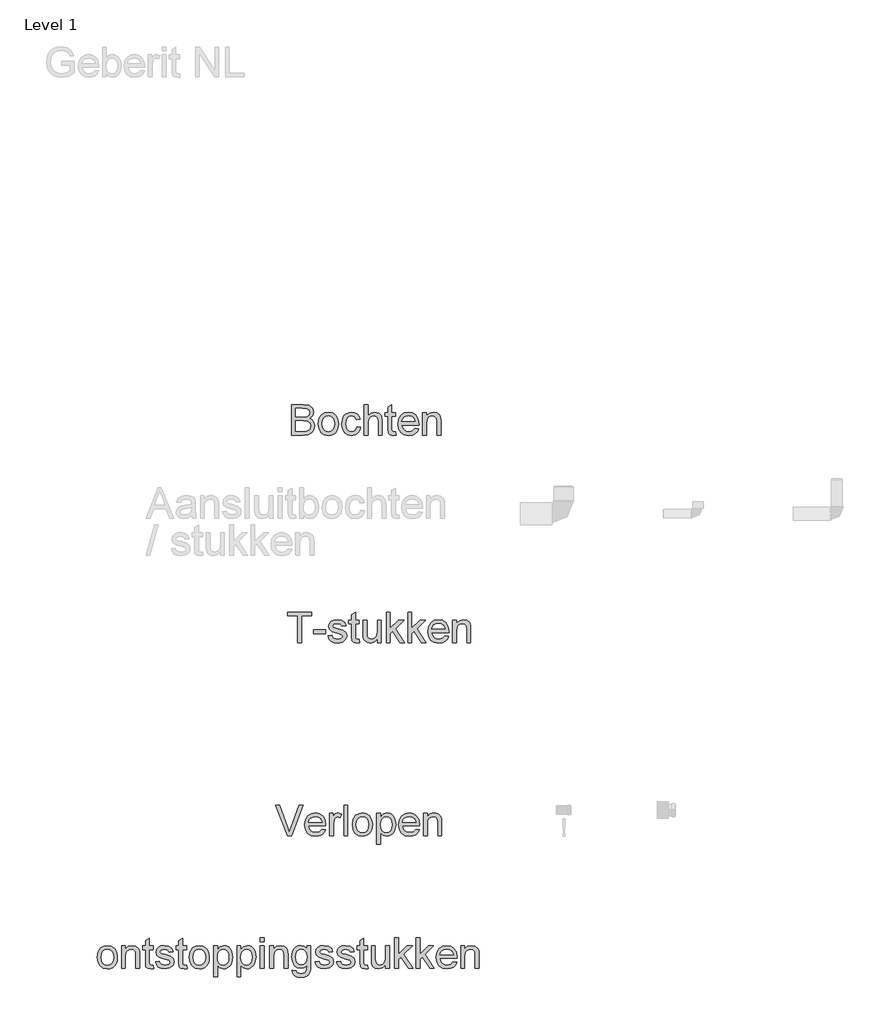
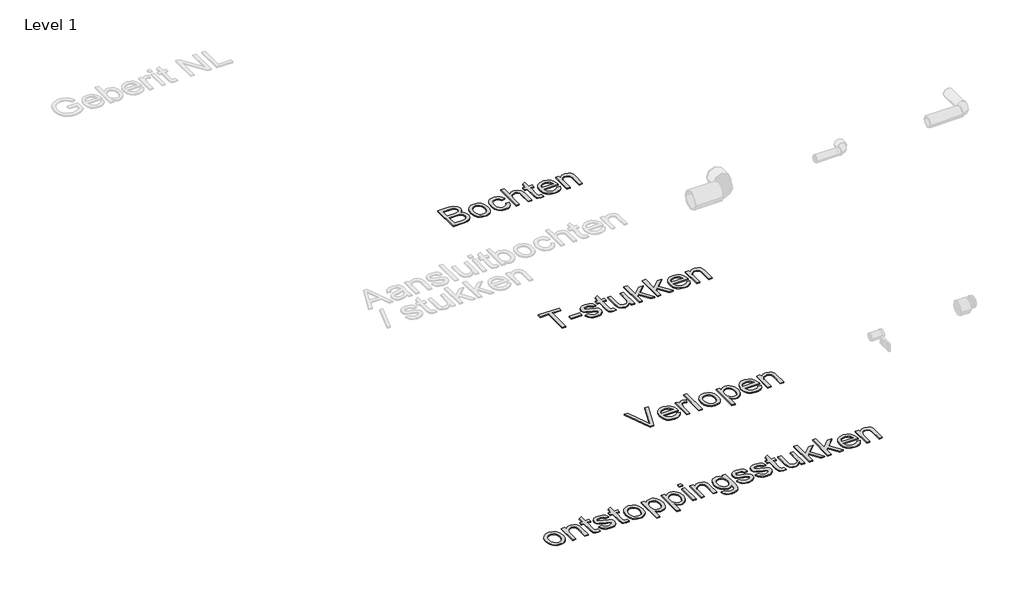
# One storey, part 2 of 6: 4 proxies.
"""IFC4 building model written with IfcOpenShell, lengths in millimetres."""

from ifc_helpers import new_model, si_unit, origin, origin_with_axes, place, context, project, spatial, polyline, outline, extrude, element, save

model = new_model("IFC4")

# Units and contexts
model_context = context("Model", 3, world=origin())
ifc_project = project(units=[si_unit("LENGTHUNIT", "METRE", prefix="MILLI")], contexts=[model_context])

# Site, building, storey
site = spatial("IfcSite", under=ifc_project)
building = spatial("IfcBuilding", under=site)
storey = spatial("IfcBuildingStorey", under=building, Name="Level 1", Elevation=0.0)

# Proxies
placement = place(None, origin())
element("IfcBuildingElementProxy", 1, Name="small", ObjectType="small", at=placement, inside=storey, context=model_context, shape_type="SweptSolid", body=[
    extrude(outline(polyline([(-2513.1083186, 21623.2663921), (-2513.1083186, 21763.9052263), (-2459.4416932, 21763.9052263), (-2433.1577509, 21759.7677802), (-2417.6380358, 21747.0464208), (-2412.0241565, 21729.0545387), (-2416.7453088, 21712.6249288), (-2431.0117726, 21700.1782546), (-2421.0501413, 21694.9764032), (-2413.6894357, 21687.0620352), (-2409.1442537, 21676.9587693), (-2407.629193, 21665.1902243), (-2411.7666392, 21646.2884474), (-2422.0158315, 21632.8288715), (-2437.3123649, 21625.6870557), (-2459.853721, 21623.2663921), (-2513.1083186, 21623.2663921)]), holes=[polyline([(-2495.5284644, 21706.7706999), (-2463.4246289, 21706.7706999), (-2444.6773624, 21708.2814687), (-2433.3981005, 21714.7880749), (-2429.6040108, 21726.2390151), (-2433.1405831, 21737.7071232), (-2443.2696007, 21744.4884146), (-2465.8624603, 21746.3253721), (-2495.5284644, 21746.3253721), (-2495.5284644, 21706.7706999)]), polyline([(-2495.5284644, 21640.8462464), (-2459.4760288, 21640.8462464), (-2446.4284807, 21641.5329595), (-2435.3895683, 21645.3613848), (-2428.0760743, 21653.1727458), (-2425.2090473, 21665.018546), (-2428.5739412, 21678.6841359), (-2439.475511, 21686.8388534), (-2461.1928115, 21689.1908457), (-2495.5284644, 21689.1908457), (-2495.5284644, 21640.8462464)])]), origin_with_axes(), (0.0, 0.0, 1.0), 5.0),
    extrude(outline(polyline([(-2390.0493387, 21674.9072141), (-2386.2466651, 21699.8091463), (-2374.8386445, 21717.3117454), (-2360.743859, 21725.8870747), (-2343.8678856, 21728.7455178), (-2325.3995963, 21725.264741), (-2310.6481414, 21714.8224105), (-2300.9783632, 21698.2425822), (-2297.7551038, 21676.3493115), (-2299.1800333, 21658.589195), (-2303.4548221, 21645.0695317), (-2310.4550034, 21634.9448061), (-2320.0561103, 21627.3695026), (-2331.459839, 21622.6440584), (-2343.8678856, 21621.0689103), (-2362.5593566, 21624.5368113), (-2377.2936437, 21634.9405141), (-2386.8604149, 21651.867991), (-2390.0493387, 21674.9072141)]), holes=[polyline([(-2372.4694844, 21674.9415497), (-2370.435097, 21659.0312666), (-2364.3319347, 21647.6962092), (-2355.1471475, 21640.9106257), (-2343.8678856, 21638.6487646), (-2332.6401271, 21640.9235016), (-2323.4725078, 21647.7477126), (-2317.3693455, 21659.2329885), (-2315.334958, 21675.4909202), (-2317.3822213, 21690.937672), (-2323.5240112, 21702.118219), (-2332.7045064, 21708.9038024), (-2343.8678856, 21711.1656635), (-2355.1471475, 21708.9123863), (-2364.3319347, 21702.1525546), (-2370.435097, 21690.843249), (-2372.4694844, 21674.9415497)])]), origin_with_axes(), (0.0, 0.0, 1.0), 5.0),
    extrude(outline(polyline([(-2212.0533142, 21660.6235825), (-2194.4734599, 21658.4261007), (-2199.3748743, 21642.7905027), (-2208.5854132, 21630.9747462), (-2221.2381013, 21623.5453693), (-2236.4659634, 21621.0689103), (-2255.1660183, 21624.5239354), (-2269.7887145, 21634.8890106), (-2279.2267271, 21651.7091886), (-2282.3727313, 21674.5295219), (-2276.9992016, 21703.7319947), (-2270.2179101, 21714.680776), (-2260.6210952, 21722.496429), (-2249.1401112, 21727.1832456), (-2236.7063129, 21728.7455178), (-2221.8518511, 21726.5995395), (-2209.9760072, 21720.1616046), (-2201.4564733, 21709.7750696), (-2196.6709417, 21695.783291), (-2214.2507959, 21693.5858092), (-2222.4055135, 21706.7535321), (-2236.5689703, 21711.1656635), (-2247.9297795, 21708.9939335), (-2256.9471803, 21702.4787433), (-2262.8314528, 21691.2681527), (-2264.792877, 21675.010221), (-2262.8743724, 21658.5333996), (-2257.1188586, 21647.2841813), (-2248.2645521, 21640.8076188), (-2237.0496695, 21638.6487646), (-2220.4827169, 21644.0394621), (-2215.0533918, 21650.880841), (-2212.0533142, 21660.6235825)])), origin_with_axes(), (0.0, 0.0, 1.0), 5.0),
    extrude(outline(polyline([(-2179.0910874, 21623.2663921), (-2179.0910874, 21763.9052263), (-2161.5112331, 21763.9052263), (-2161.5112331, 21712.1957331), (-2147.8027237, 21724.6080716), (-2130.9181664, 21728.7455178), (-2111.175166, 21724.2303794), (-2099.1920231, 21711.7493696), (-2095.5867796, 21688.6414752), (-2095.5867796, 21623.2663921), (-2113.1666339, 21623.2663921), (-2113.1666339, 21686.8216856), (-2114.5658117, 21697.8262624), (-2118.7633453, 21705.3629382), (-2125.5274689, 21709.7149822), (-2134.6264169, 21711.1656635), (-2149.0302233, 21707.2513991), (-2158.6442061, 21696.6416823), (-2161.5112331, 21678.1347654), (-2161.5112331, 21623.2663921), (-2179.0910874, 21623.2663921)])), origin_with_axes(), (0.0, 0.0, 1.0), 5.0),
    extrude(outline(polyline([(-2034.0572896, 21637.9277159), (-2031.8598078, 21622.7513573), (-2045.0103629, 21621.0689103), (-2059.740358, 21623.9874408), (-2067.0881877, 21631.6442914), (-2069.2169982, 21651.5933058), (-2069.2169982, 21708.9681817), (-2082.4018889, 21708.9681817), (-2082.4018889, 21726.548036), (-2069.2169982, 21726.548036), (-2069.2169982, 21751.6473983), (-2051.6371439, 21761.9824298), (-2051.6371439, 21726.548036), (-2034.0572896, 21726.548036), (-2034.0572896, 21708.9681817), (-2051.6371439, 21708.9681817), (-2051.6371439, 21652.1083405), (-2050.7100813, 21643.0437282), (-2047.7057116, 21639.8333446), (-2041.7141402, 21638.6487646), (-2034.0572896, 21637.9277159)])), origin_with_axes(), (0.0, 0.0, 1.0), 5.0),
    extrude(outline(polyline([(-1944.1665504, 21654.0311371), (-1926.9300526, 21651.8336553), (-1933.1405138, 21638.8461946), (-1943.0506416, 21629.1377888), (-1956.4372543, 21623.0861299), (-1973.0771701, 21621.0689103), (-1993.7043136, 21624.5496872), (-2009.5759691, 21634.9920176), (-2019.6964028, 21651.7177725), (-2023.0698807, 21674.0488227), (-2019.6620671, 21697.1309654), (-2009.4386265, 21714.3932149), (-1993.7815688, 21725.1574421), (-1974.072904, 21728.7455178), (-1954.9779891, 21725.166026), (-1939.7200833, 21714.4275505), (-1929.7155325, 21697.1996367), (-1926.3806822, 21674.1518297), (-1926.4836891, 21669.4135096), (-2005.4900264, 21669.4135096), (-2002.4470292, 21656.2543706), (-1995.3781766, 21646.5803004), (-1985.1761958, 21640.6316486), (-1972.7338136, 21638.6487646), (-1955.4973158, 21642.3226795), (-1944.1665504, 21654.0311371)]), holes=[polyline([(-2005.4900264, 21686.9933639), (-1943.9605364, 21686.9933639), (-1950.9993453, 21702.9251068), (-1961.2485377, 21709.1055243), (-1974.1415753, 21711.1656635), (-1985.9916675, 21709.5218441), (-1995.7902045, 21704.590386), (-2002.6015396, 21696.9034917), (-2005.4900264, 21686.9933639)])]), origin_with_axes(), (0.0, 0.0, 1.0), 5.0),
    extrude(outline(polyline([(-1908.8008279, 21623.2663921), (-1908.8008279, 21726.548036), (-1891.2209736, 21726.548036), (-1891.2209736, 21712.1270618), (-1877.7785655, 21724.5909038), (-1859.426159, 21728.7455178), (-1842.8248709, 21725.3977916), (-1831.4941054, 21716.6078645), (-1826.2235827, 21703.6804912), (-1825.2965201, 21686.684343), (-1825.2965201, 21623.2663921), (-1842.8763744, 21623.2663921), (-1842.8763744, 21684.315183), (-1844.9021779, 21699.8692337), (-1852.0611615, 21708.0926226), (-1864.1301435, 21711.1656635), (-1874.4265474, 21709.4402969), (-1883.2035987, 21704.2641973), (-1889.2166299, 21694.2639384), (-1891.2209736, 21678.0660941), (-1891.2209736, 21623.2663921), (-1908.8008279, 21623.2663921)])), origin_with_axes(), (0.0, 0.0, 1.0), 5.0),
])
element("IfcBuildingElementProxy", 2, Name="small", ObjectType="small", at=placement, inside=storey, context=model_context, shape_type="SweptSolid", body=[
    extrude(outline(polyline([(-2484.998685, 20666.7737086), (-2484.998685, 20789.8326885), (-2531.1458025, 20789.8326885), (-2531.1458025, 20807.4125428), (-2421.2717132, 20807.4125428), (-2421.2717132, 20789.8326885), (-2467.4188307, 20789.8326885), (-2467.4188307, 20666.7737086), (-2484.998685, 20666.7737086)])), origin_with_axes(), (0.0, 0.0, 1.0), 5.0),
    extrude(outline(polyline([(-2412.4817861, 20708.5258625), (-2412.4817861, 20726.1057168), (-2357.5447415, 20726.1057168), (-2357.5447415, 20708.5258625), (-2412.4817861, 20708.5258625)])), origin_with_axes(), (0.0, 0.0, 1.0), 5.0),
    extrude(outline(polyline([(-2344.3598508, 20697.5384536), (-2326.7799965, 20699.7359353), (-2324.0073925, 20692.2164274), (-2318.6424468, 20686.6883872), (-2299.9981872, 20682.1560811), (-2282.0749764, 20686.3106951), (-2276.2379154, 20696.0620205), (-2282.1093121, 20703.9592206), (-2300.2042012, 20708.972226), (-2326.6769895, 20717.573307), (-2338.2309367, 20727.6164855), (-2342.162369, 20741.7971101), (-2339.0034889, 20754.8961617), (-2330.38524, 20764.9050045), (-2319.208985, 20770.1068559), (-2304.0841299, 20772.2528342), (-2282.6930182, 20768.8021011), (-2269.0960996, 20759.4628035), (-2263.0530247, 20743.685571), (-2280.632879, 20741.4880892), (-2287.2424922, 20751.1879112), (-2302.7107038, 20754.67298), (-2319.5351737, 20751.3424216), (-2324.5825147, 20743.5825641), (-2322.4880399, 20738.4665518), (-2315.9299302, 20734.586623), (-2300.7879073, 20730.8440369), (-2274.9846641, 20722.5691445), (-2263.0015213, 20713.1955113), (-2258.6580612, 20697.9161457), (-2263.7569056, 20681.0916758), (-2278.4697329, 20668.8853512), (-2300.2385368, 20664.5762268), (-2317.9643176, 20666.6535338), (-2330.9002748, 20672.8854548), (-2339.5356915, 20683.2033185), (-2344.3598508, 20697.5384536)])), origin_with_axes(), (0.0, 0.0, 1.0), 5.0),
    extrude(outline(polyline([(-2201.5235348, 20681.4350324), (-2199.326053, 20666.2586738), (-2212.476608, 20664.5762268), (-2227.2066031, 20667.4947573), (-2234.5544328, 20675.1516079), (-2236.6832433, 20695.1006222), (-2236.6832433, 20752.4754982), (-2249.868134, 20752.4754982), (-2249.868134, 20770.0553524), (-2236.6832433, 20770.0553524), (-2236.6832433, 20795.1547147), (-2219.103389, 20805.4897462), (-2219.103389, 20770.0553524), (-2201.5235348, 20770.0553524), (-2201.5235348, 20752.4754982), (-2219.103389, 20752.4754982), (-2219.103389, 20695.615657), (-2218.1763264, 20686.5510446), (-2215.1719568, 20683.3406611), (-2209.1803854, 20682.1560811), (-2201.5235348, 20681.4350324)])), origin_with_axes(), (0.0, 0.0, 1.0), 5.0),
    extrude(outline(polyline([(-2118.019227, 20666.7737086), (-2118.019227, 20684.5252411), (-2131.7878238, 20669.5634804), (-2149.7453702, 20664.5762268), (-2166.2779871, 20668.0784634), (-2177.6774238, 20676.8683905), (-2182.9136109, 20689.8129317), (-2183.9436805, 20706.1567024), (-2183.9436805, 20770.0553524), (-2166.3638262, 20770.0553524), (-2166.3638262, 20714.4315948), (-2165.299421, 20696.508384), (-2158.3464513, 20685.9845064), (-2145.2473997, 20682.1560811), (-2130.5689081, 20686.0703455), (-2120.8690862, 20696.7315657), (-2118.019227, 20716.3200557), (-2118.019227, 20770.0553524), (-2100.4393727, 20770.0553524), (-2100.4393727, 20666.7737086), (-2118.019227, 20666.7737086)])), origin_with_axes(), (0.0, 0.0, 1.0), 5.0),
    extrude(outline(polyline([(-2076.2670731, 20666.7737086), (-2076.2670731, 20807.4125428), (-2058.6872188, 20807.4125428), (-2058.6872188, 20731.8397708), (-2019.2698893, 20770.0553524), (-1994.960247, 20770.0553524), (-2034.8582757, 20731.3590716), (-1992.7627652, 20666.7737086), (-2013.2954857, 20666.7737086), (-2047.4594603, 20719.1355792), (-2058.6872188, 20708.2511773), (-2058.6872188, 20666.7737086), (-2076.2670731, 20666.7737086)])), origin_with_axes(), (0.0, 0.0, 1.0), 5.0),
    extrude(outline(polyline([(-1977.3803928, 20666.7737086), (-1977.3803928, 20807.4125428), (-1959.8005385, 20807.4125428), (-1959.8005385, 20731.8397708), (-1920.383209, 20770.0553524), (-1896.0735667, 20770.0553524), (-1935.9715954, 20731.3590716), (-1893.8760849, 20666.7737086), (-1914.4088054, 20666.7737086), (-1948.57278, 20719.1355792), (-1959.8005385, 20708.2511773), (-1959.8005385, 20666.7737086), (-1977.3803928, 20666.7737086)])), origin_with_axes(), (0.0, 0.0, 1.0), 5.0),
    extrude(outline(polyline([(-1806.1828275, 20697.5384536), (-1788.9463297, 20695.3409718), (-1795.1567909, 20682.3535111), (-1805.0669188, 20672.6451052), (-1818.4535314, 20666.5934464), (-1835.0934472, 20664.5762268), (-1855.7205907, 20668.0570036), (-1871.5922462, 20678.499334), (-1881.7126799, 20695.2250889), (-1885.0861578, 20717.5561392), (-1881.6783443, 20740.6382818), (-1871.4549036, 20757.9005313), (-1855.7978459, 20768.6647585), (-1836.0891811, 20772.2528342), (-1816.9942662, 20768.6733424), (-1801.7363604, 20757.934867), (-1791.7318096, 20740.7069531), (-1788.3969593, 20717.6591461), (-1788.4999662, 20712.920826), (-1867.5063035, 20712.920826), (-1864.4633063, 20699.7616871), (-1857.3944538, 20690.0876169), (-1847.1924729, 20684.138965), (-1834.7500907, 20682.1560811), (-1817.5135929, 20685.8299959), (-1806.1828275, 20697.5384536)]), holes=[polyline([(-1867.5063035, 20730.5006803), (-1805.9768136, 20730.5006803), (-1813.0156224, 20746.4324233), (-1823.2648148, 20752.6128408), (-1836.1578524, 20754.67298), (-1848.0079446, 20753.0291606), (-1857.8064816, 20748.0977024), (-1864.6178167, 20740.4108081), (-1867.5063035, 20730.5006803)])]), origin_with_axes(), (0.0, 0.0, 1.0), 5.0),
    extrude(outline(polyline([(-1770.817105, 20666.7737086), (-1770.817105, 20770.0553524), (-1753.2372507, 20770.0553524), (-1753.2372507, 20755.6343782), (-1739.7948426, 20768.0982202), (-1721.4424362, 20772.2528342), (-1704.841148, 20768.9051081), (-1693.5103825, 20760.1151809), (-1688.2398598, 20747.1878076), (-1687.3127972, 20730.1916594), (-1687.3127972, 20666.7737086), (-1704.8926515, 20666.7737086), (-1704.8926515, 20727.8224994), (-1706.918455, 20743.3765502), (-1714.0774386, 20751.599939), (-1726.1464206, 20754.67298), (-1736.4428245, 20752.9476134), (-1745.2198758, 20747.7715137), (-1751.232907, 20737.7712548), (-1753.2372507, 20721.5734106), (-1753.2372507, 20666.7737086), (-1770.817105, 20666.7737086)])), origin_with_axes(), (0.0, 0.0, 1.0), 5.0),
])
element("IfcBuildingElementProxy", 3, Name="small", ObjectType="small", at=placement, inside=storey, context=model_context, shape_type="SweptSolid", body=[
    extrude(outline(polyline([(-2531.6280803, 19776.1046836), (-2587.5951945, 19916.7435178), (-2568.7792567, 19916.7435178), (-2531.3190594, 19815.4190061), (-2523.7308801, 19792.5857969), (-2516.2457078, 19815.4190061), (-2478.6825035, 19916.7435178), (-2459.8665657, 19916.7435178), (-2513.4645199, 19776.1046836), (-2531.6280803, 19776.1046836)])), origin_with_axes(), (0.0, 0.0, 1.0), 5.0),
    extrude(outline(polyline([(-2373.4093918, 19806.8694285), (-2356.172894, 19804.6719468), (-2362.3833553, 19791.6844861), (-2372.2934831, 19781.9760802), (-2385.6800957, 19775.9244214), (-2402.3200115, 19773.9072018), (-2422.947155, 19777.3879786), (-2438.8188105, 19787.830309), (-2448.9392442, 19804.5560639), (-2452.3127221, 19826.8871142), (-2448.9049086, 19849.9692568), (-2438.6814679, 19867.2315063), (-2423.0244102, 19877.9957335), (-2403.3157454, 19881.5838092), (-2384.2208305, 19878.0043174), (-2368.9629247, 19867.265842), (-2358.9583739, 19850.0379281), (-2355.6235236, 19826.9901211), (-2355.7265306, 19822.251801), (-2434.7328678, 19822.251801), (-2431.6898706, 19809.0926621), (-2424.6210181, 19799.4185919), (-2414.4190372, 19793.46994), (-2401.976655, 19791.487056), (-2384.7401572, 19795.1609709), (-2373.4093918, 19806.8694285)]), holes=[polyline([(-2434.7328678, 19839.8316553), (-2373.2033779, 19839.8316553), (-2380.2421867, 19855.7633982), (-2390.4913791, 19861.9438158), (-2403.3844168, 19864.0039549), (-2415.234509, 19862.3601356), (-2425.0330459, 19857.4286774), (-2431.844381, 19849.7417831), (-2434.7328678, 19839.8316553)])]), origin_with_axes(), (0.0, 0.0, 1.0), 5.0),
    extrude(outline(polyline([(-2338.0436693, 19776.1046836), (-2338.0436693, 19879.3863274), (-2322.6612968, 19879.3863274), (-2322.6612968, 19864.1069619), (-2311.7425592, 19878.1845796), (-2300.7551503, 19881.5838092), (-2283.1066247, 19876.1587761), (-2288.9780213, 19860.3987114), (-2301.3388564, 19864.0039549), (-2311.2790279, 19860.536054), (-2317.6139559, 19850.9220712), (-2320.463815, 19830.3893508), (-2320.463815, 19776.1046836), (-2338.0436693, 19776.1046836)])), origin_with_axes(), (0.0, 0.0, 1.0), 5.0),
    extrude(outline(polyline([(-2272.1192158, 19776.1046836), (-2272.1192158, 19916.7435178), (-2254.5393615, 19916.7435178), (-2254.5393615, 19776.1046836), (-2272.1192158, 19776.1046836)])), origin_with_axes(), (0.0, 0.0, 1.0), 5.0),
    extrude(outline(polyline([(-2232.5645437, 19827.7455055), (-2228.7618701, 19852.6474377), (-2217.3538494, 19870.1500368), (-2203.2590639, 19878.7253661), (-2186.3830905, 19881.5838092), (-2167.9148012, 19878.1030324), (-2153.1633464, 19867.660702), (-2143.4935681, 19851.0808736), (-2140.2703087, 19829.1876029), (-2141.6952383, 19811.4274865), (-2145.9700271, 19797.9078231), (-2152.9702083, 19787.7830975), (-2162.5713153, 19780.2077941), (-2173.975044, 19775.4823498), (-2186.3830905, 19773.9072018), (-2205.0745616, 19777.3751027), (-2219.8088486, 19787.7788055), (-2229.3756199, 19804.7062824), (-2232.5645437, 19827.7455055)]), holes=[polyline([(-2214.9846894, 19827.7798411), (-2212.9503019, 19811.869558), (-2206.8471396, 19800.5345006), (-2197.6623525, 19793.7489172), (-2186.3830905, 19791.487056), (-2175.155332, 19793.7617931), (-2165.9877127, 19800.5860041), (-2159.8845504, 19812.07128), (-2157.850163, 19828.3292116), (-2159.8974263, 19843.7759634), (-2166.0392162, 19854.9565104), (-2175.2197114, 19861.7420938), (-2186.3830905, 19864.0039549), (-2197.6623525, 19861.7506777), (-2206.8471396, 19854.9908461), (-2212.9503019, 19843.6815404), (-2214.9846894, 19827.7798411)])]), origin_with_axes(), (0.0, 0.0, 1.0), 5.0),
    extrude(outline(polyline([(-2120.4929726, 19736.5500114), (-2120.4929726, 19879.3863274), (-2102.9131184, 19879.3863274), (-2102.9131184, 19862.1498297), (-2090.7582973, 19876.7253143), (-2074.3458552, 19881.5838092), (-2062.4571354, 19879.8841944), (-2052.0620165, 19874.7853499), (-2043.598278, 19866.5962967), (-2037.5036996, 19855.6260556), (-2032.5937013, 19828.5352255), (-2038.1389092, 19800.0538014), (-2044.9373685, 19788.8775464), (-2054.2423304, 19780.6541576), (-2065.0795209, 19775.5939407), (-2076.4746657, 19773.9072018), (-2091.771199, 19778.4223401), (-2102.9131184, 19789.8389447), (-2102.9131184, 19736.5500114), (-2120.4929726, 19736.5500114)]), holes=[polyline([(-2102.9131184, 19826.9214498), (-2101.0117816, 19811.1613851), (-2095.3077713, 19800.1396406), (-2086.8912443, 19793.6502022), (-2076.8523578, 19791.487056), (-2066.650377, 19793.7274574), (-2058.0192522, 19800.4486615), (-2052.1349797, 19811.8738499), (-2050.1735555, 19828.2262046), (-2052.0877682, 19843.9004302), (-2057.8304061, 19855.0766852), (-2066.2340572, 19861.7721375), (-2076.1313091, 19864.0039549), (-2086.0671887, 19861.6305029), (-2094.7927365, 19854.5101469), (-2100.8830229, 19842.8660686), (-2102.9131184, 19826.9214498)])]), origin_with_axes(), (0.0, 0.0, 1.0), 5.0),
    extrude(outline(polyline([(-1940.5054802, 19806.8694285), (-1923.2689825, 19804.6719468), (-1929.4794437, 19791.6844861), (-1939.3895715, 19781.9760802), (-1952.7761842, 19775.9244214), (-1969.4161, 19773.9072018), (-1990.0432434, 19777.3879786), (-2005.914899, 19787.830309), (-2016.0353327, 19804.5560639), (-2019.4088106, 19826.8871142), (-2016.000997, 19849.9692568), (-2005.7775564, 19867.2315063), (-1990.1204987, 19877.9957335), (-1970.4118339, 19881.5838092), (-1951.3169189, 19878.0043174), (-1936.0590132, 19867.265842), (-1926.0544623, 19850.0379281), (-1922.719612, 19826.9901211), (-1922.822619, 19822.251801), (-2001.8289563, 19822.251801), (-1998.785959, 19809.0926621), (-1991.7171065, 19799.4185919), (-1981.5151256, 19793.46994), (-1969.0727434, 19791.487056), (-1951.8362457, 19795.1609709), (-1940.5054802, 19806.8694285)]), holes=[polyline([(-2001.8289563, 19839.8316553), (-1940.2994663, 19839.8316553), (-1947.3382752, 19855.7633982), (-1957.5874675, 19861.9438158), (-1970.4805052, 19864.0039549), (-1982.3305974, 19862.3601356), (-1992.1291343, 19857.4286774), (-1998.9404695, 19849.7417831), (-2001.8289563, 19839.8316553)])]), origin_with_axes(), (0.0, 0.0, 1.0), 5.0),
    extrude(outline(polyline([(-1905.1397578, 19776.1046836), (-1905.1397578, 19879.3863274), (-1887.5599035, 19879.3863274), (-1887.5599035, 19864.9653532), (-1874.1174954, 19877.4291952), (-1855.7650889, 19881.5838092), (-1839.1638008, 19878.2360831), (-1827.8330353, 19869.4461559), (-1822.5625126, 19856.5187826), (-1821.63545, 19839.5226344), (-1821.63545, 19776.1046836), (-1839.2153042, 19776.1046836), (-1839.2153042, 19837.1534744), (-1841.2411077, 19852.7075251), (-1848.4000914, 19860.930914), (-1860.4690734, 19864.0039549), (-1870.7654773, 19862.2785884), (-1879.5425285, 19857.1024887), (-1885.5555598, 19847.1022298), (-1887.5599035, 19830.9043856), (-1887.5599035, 19776.1046836), (-1905.1397578, 19776.1046836)])), origin_with_axes(), (0.0, 0.0, 1.0), 5.0),
])
element("IfcBuildingElementProxy", 4, Name="small", ObjectType="small", at=placement, inside=storey, context=model_context, shape_type="SweptSolid", body=[
    extrude(outline(polyline([(-3409.2221868, 19216.7836302), (-3405.4195132, 19241.6855625), (-3394.0114925, 19259.1881615), (-3379.916707, 19267.7634908), (-3363.0407336, 19270.6219339), (-3344.5724443, 19267.1411571), (-3329.8209895, 19256.6988267), (-3320.1512112, 19240.1189983), (-3316.9279518, 19218.2257276), (-3318.3528814, 19200.4656112), (-3322.6276702, 19186.9459479), (-3329.6278514, 19176.8212222), (-3339.2289584, 19169.2459188), (-3350.6326871, 19164.5204746), (-3363.0407336, 19162.9453265), (-3381.7322047, 19166.4132274), (-3396.4664917, 19176.8169303), (-3406.033263, 19193.7444071), (-3409.2221868, 19216.7836302)]), holes=[polyline([(-3391.6423325, 19216.8179659), (-3389.6079451, 19200.9076827), (-3383.5047828, 19189.5726253), (-3374.3199956, 19182.7870419), (-3363.0407336, 19180.5251808), (-3351.8129751, 19182.7999178), (-3342.6453558, 19189.6241288), (-3336.5421935, 19201.1094047), (-3334.5078061, 19217.3673363), (-3336.5550694, 19232.8140882), (-3342.6968593, 19243.9946351), (-3351.8773545, 19250.7802185), (-3363.0407336, 19253.0420797), (-3374.3199956, 19250.7888024), (-3383.5047828, 19244.0289708), (-3389.6079451, 19232.7196651), (-3391.6423325, 19216.8179659)])]), origin_with_axes(), (0.0, 0.0, 1.0), 5.0),
    extrude(outline(polyline([(-3297.1506158, 19165.1428083), (-3297.1506158, 19268.4244522), (-3279.5707615, 19268.4244522), (-3279.5707615, 19254.0034779), (-3266.1283534, 19266.4673199), (-3247.7759469, 19270.6219339), (-3231.1746587, 19267.2742078), (-3219.8438933, 19258.4842806), (-3214.5733706, 19245.5569073), (-3213.6463079, 19228.5607592), (-3213.6463079, 19165.1428083), (-3231.2261622, 19165.1428083), (-3231.2261622, 19226.1915991), (-3233.2519657, 19241.7456499), (-3240.4109494, 19249.9690387), (-3252.4799314, 19253.0420797), (-3262.7763353, 19251.3167131), (-3271.5533865, 19246.1406134), (-3277.5664177, 19236.1403545), (-3279.5707615, 19219.9425103), (-3279.5707615, 19165.1428083), (-3297.1506158, 19165.1428083)])), origin_with_axes(), (0.0, 0.0, 1.0), 5.0),
    extrude(outline(polyline([(-3152.116818, 19179.8041321), (-3149.9193362, 19164.6277735), (-3163.0698912, 19162.9453265), (-3177.7998863, 19165.863857), (-3185.147716, 19173.5207076), (-3187.2765265, 19193.4697219), (-3187.2765265, 19250.8445979), (-3200.4614172, 19250.8445979), (-3200.4614172, 19268.4244522), (-3187.2765265, 19268.4244522), (-3187.2765265, 19293.5238144), (-3169.6966722, 19303.8588459), (-3169.6966722, 19268.4244522), (-3152.116818, 19268.4244522), (-3152.116818, 19250.8445979), (-3169.6966722, 19250.8445979), (-3169.6966722, 19193.9847567), (-3168.7696096, 19184.9201443), (-3165.76524, 19181.7097608), (-3159.7736686, 19180.5251808), (-3152.116818, 19179.8041321)])), origin_with_axes(), (0.0, 0.0, 1.0), 5.0),
    extrude(outline(polyline([(-3141.1294091, 19195.9075533), (-3123.5495548, 19198.1050351), (-3120.7769508, 19190.5855271), (-3115.412005, 19185.057487), (-3096.7677455, 19180.5251808), (-3078.8445347, 19184.6797948), (-3073.0074737, 19194.4311202), (-3078.8788704, 19202.3283204), (-3096.9737594, 19207.3413257), (-3123.4465478, 19215.9424067), (-3135.000495, 19225.9855852), (-3138.9319273, 19240.1662098), (-3135.7730472, 19253.2652614), (-3127.1547983, 19263.2741042), (-3115.9785433, 19268.4759556), (-3100.8536882, 19270.6219339), (-3079.4625765, 19267.1712008), (-3065.8656579, 19257.8319032), (-3059.822583, 19242.0546707), (-3077.4024373, 19239.857189), (-3084.0120505, 19249.5570109), (-3099.4802621, 19253.0420797), (-3116.304732, 19249.7115213), (-3121.352073, 19241.9516638), (-3119.2575982, 19236.8356515), (-3112.6994885, 19232.9557227), (-3097.5574655, 19229.2131366), (-3071.7542224, 19220.9382442), (-3059.7710795, 19211.564611), (-3055.4276195, 19196.2852455), (-3060.5264639, 19179.4607755), (-3075.2392912, 19167.2544509), (-3097.0080951, 19162.9453265), (-3114.7338759, 19165.0226335), (-3127.6698331, 19171.2545545), (-3136.3052498, 19181.5724182), (-3141.1294091, 19195.9075533)])), origin_with_axes(), (0.0, 0.0, 1.0), 5.0),
    extrude(outline(polyline([(-2998.2930931, 19179.8041321), (-2996.0956113, 19164.6277735), (-3009.2461663, 19162.9453265), (-3023.9761614, 19165.863857), (-3031.3239911, 19173.5207076), (-3033.4528016, 19193.4697219), (-3033.4528016, 19250.8445979), (-3046.6376923, 19250.8445979), (-3046.6376923, 19268.4244522), (-3033.4528016, 19268.4244522), (-3033.4528016, 19293.5238144), (-3015.8729473, 19303.8588459), (-3015.8729473, 19268.4244522), (-2998.2930931, 19268.4244522), (-2998.2930931, 19250.8445979), (-3015.8729473, 19250.8445979), (-3015.8729473, 19193.9847567), (-3014.9458847, 19184.9201443), (-3011.9415151, 19181.7097608), (-3005.9499436, 19180.5251808), (-2998.2930931, 19179.8041321)])), origin_with_axes(), (0.0, 0.0, 1.0), 5.0),
    extrude(outline(polyline([(-2985.1082023, 19216.7836302), (-2981.3055288, 19241.6855625), (-2969.8975081, 19259.1881615), (-2955.8027226, 19267.7634908), (-2938.9267492, 19270.6219339), (-2920.4584599, 19267.1411571), (-2905.7070051, 19256.6988267), (-2896.0372268, 19240.1189983), (-2892.8139674, 19218.2257276), (-2894.238897, 19200.4656112), (-2898.5136858, 19186.9459479), (-2905.513867, 19176.8212222), (-2915.1149739, 19169.2459188), (-2926.5187027, 19164.5204746), (-2938.9267492, 19162.9453265), (-2957.6182203, 19166.4132274), (-2972.3525073, 19176.8169303), (-2981.9192786, 19193.7444071), (-2985.1082023, 19216.7836302)]), holes=[polyline([(-2967.5283481, 19216.8179659), (-2965.4939606, 19200.9076827), (-2959.3907983, 19189.5726253), (-2950.2060112, 19182.7870419), (-2938.9267492, 19180.5251808), (-2927.6989907, 19182.7999178), (-2918.5313714, 19189.6241288), (-2912.4282091, 19201.1094047), (-2910.3938217, 19217.3673363), (-2912.441085, 19232.8140882), (-2918.5828749, 19243.9946351), (-2927.7633701, 19250.7802185), (-2938.9267492, 19253.0420797), (-2950.2060112, 19250.7888024), (-2959.3907983, 19244.0289708), (-2965.4939606, 19232.7196651), (-2967.5283481, 19216.8179659)])]), origin_with_axes(), (0.0, 0.0, 1.0), 5.0),
    extrude(outline(polyline([(-2873.0366313, 19125.5881362), (-2873.0366313, 19268.4244522), (-2855.4567771, 19268.4244522), (-2855.4567771, 19251.1879544), (-2843.3019559, 19265.7634391), (-2826.8895139, 19270.6219339), (-2815.0007941, 19268.9223191), (-2804.6056751, 19263.8234747), (-2796.1419367, 19255.6344215), (-2790.0473583, 19244.6641804), (-2785.13736, 19217.5733502), (-2790.6825679, 19189.0919262), (-2797.4810272, 19177.9156712), (-2806.7859891, 19169.6922823), (-2817.6231795, 19164.6320654), (-2829.0183243, 19162.9453265), (-2844.3148577, 19167.4604649), (-2855.4567771, 19178.8770694), (-2855.4567771, 19125.5881362), (-2873.0366313, 19125.5881362)]), holes=[polyline([(-2855.4567771, 19215.9595746), (-2853.5554403, 19200.1995099), (-2847.8514299, 19189.1777653), (-2839.434903, 19182.6883269), (-2829.3960165, 19180.5251808), (-2819.1940357, 19182.7655821), (-2810.5629109, 19189.4867862), (-2804.6786384, 19200.9119747), (-2802.7172142, 19217.2643294), (-2804.6314269, 19232.9385549), (-2810.3740648, 19244.1148099), (-2818.7777159, 19250.8102622), (-2828.6749678, 19253.0420797), (-2838.6108474, 19250.6686277), (-2847.3363952, 19243.5482716), (-2853.4266816, 19231.9041934), (-2855.4567771, 19215.9595746)])]), origin_with_axes(), (0.0, 0.0, 1.0), 5.0),
    extrude(outline(polyline([(-2765.3600239, 19125.5881362), (-2765.3600239, 19268.4244522), (-2747.7801696, 19268.4244522), (-2747.7801696, 19251.1879544), (-2735.6253485, 19265.7634391), (-2719.2129064, 19270.6219339), (-2707.3241866, 19268.9223191), (-2696.9290677, 19263.8234747), (-2688.4653293, 19255.6344215), (-2682.3707509, 19244.6641804), (-2677.4607525, 19217.5733502), (-2683.0059605, 19189.0919262), (-2689.8044197, 19177.9156712), (-2699.1093817, 19169.6922823), (-2709.9465721, 19164.6320654), (-2721.3417169, 19162.9453265), (-2736.6382503, 19167.4604649), (-2747.7801696, 19178.8770694), (-2747.7801696, 19125.5881362), (-2765.3600239, 19125.5881362)]), holes=[polyline([(-2747.7801696, 19215.9595746), (-2745.8788328, 19200.1995099), (-2740.1748225, 19189.1777653), (-2731.7582956, 19182.6883269), (-2721.7194091, 19180.5251808), (-2711.5174282, 19182.7655821), (-2702.8863035, 19189.4867862), (-2697.002031, 19200.9119747), (-2695.0406068, 19217.2643294), (-2696.9548194, 19232.9385549), (-2702.6974574, 19244.1148099), (-2711.1011084, 19250.8102622), (-2720.9983604, 19253.0420797), (-2730.9342399, 19250.6686277), (-2739.6597877, 19243.5482716), (-2745.7500741, 19231.9041934), (-2747.7801696, 19215.9595746)])]), origin_with_axes(), (0.0, 0.0, 1.0), 5.0),
    extrude(outline(polyline([(-2657.6834165, 19288.2017882), (-2657.6834165, 19305.7816425), (-2640.1035622, 19305.7816425), (-2640.1035622, 19288.2017882), (-2657.6834165, 19288.2017882)])), origin_with_axes(), (0.0, 0.0, 1.0), 5.0),
    extrude(outline(polyline([(-2657.6834165, 19165.1428083), (-2657.6834165, 19268.4244522), (-2640.1035622, 19268.4244522), (-2640.1035622, 19165.1428083), (-2657.6834165, 19165.1428083)])), origin_with_axes(), (0.0, 0.0, 1.0), 5.0),
    extrude(outline(polyline([(-2613.7337808, 19165.1428083), (-2613.7337808, 19268.4244522), (-2596.1539265, 19268.4244522), (-2596.1539265, 19254.0034779), (-2582.7115184, 19266.4673199), (-2564.3591119, 19270.6219339), (-2547.7578237, 19267.2742078), (-2536.4270583, 19258.4842806), (-2531.1565356, 19245.5569073), (-2530.229473, 19228.5607592), (-2530.229473, 19165.1428083), (-2547.8093272, 19165.1428083), (-2547.8093272, 19226.1915991), (-2549.8351307, 19241.7456499), (-2556.9941144, 19249.9690387), (-2569.0630964, 19253.0420797), (-2579.3595003, 19251.3167131), (-2588.1365515, 19246.1406134), (-2594.1495828, 19236.1403545), (-2596.1539265, 19219.9425103), (-2596.1539265, 19165.1428083), (-2613.7337808, 19165.1428083)])), origin_with_axes(), (0.0, 0.0, 1.0), 5.0),
    extrude(outline(polyline([(-2510.4521369, 19156.3528811), (-2492.8722826, 19154.1553994), (-2487.1725642, 19144.8847731), (-2470.1077448, 19140.9705087), (-2452.1158626, 19145.3998079), (-2443.5319494, 19157.8293142), (-2442.3302016, 19178.327699), (-2454.7082044, 19168.439031), (-2469.7987239, 19165.1428083), (-2487.9236566, 19168.9798175), (-2501.439028, 19180.4908451), (-2509.846971, 19197.3668185), (-2512.6496187, 19217.298665), (-2507.6194455, 19244.5440056), (-2501.4647798, 19255.6043778), (-2493.0611287, 19263.8234747), (-2482.6960535, 19268.9223191), (-2470.6571152, 19270.6219339), (-2454.9743057, 19266.7763408), (-2442.3302016, 19255.2395615), (-2442.3302016, 19268.4244522), (-2424.7503473, 19268.4244522), (-2424.7503473, 19179.2547616), (-2425.9520951, 19158.6662458), (-2429.5573387, 19145.1079548), (-2435.7677999, 19136.1163057), (-2444.7852008, 19129.2277154), (-2456.4121112, 19124.8499196), (-2470.4511013, 19123.3906544), (-2486.8077479, 19125.4465016), (-2499.6879097, 19131.6140432), (-2507.9499262, 19141.9104472), (-2510.4521369, 19156.3528811)]), holes=[polyline([(-2495.0697644, 19218.5004129), (-2493.1941794, 19202.3755319), (-2487.5674242, 19191.289408), (-2479.1079778, 19184.8643489), (-2468.7343186, 19182.7226626), (-2458.4379147, 19184.851473), (-2449.9355487, 19191.2379045), (-2444.2315384, 19202.1823938), (-2442.3302016, 19217.9853781), (-2444.2873338, 19233.226116), (-2450.1587304, 19244.200649), (-2458.7855632, 19250.831722), (-2469.0090039, 19253.0420797), (-2479.0478904, 19250.8660577), (-2487.4644173, 19244.3379917), (-2493.1684276, 19233.526553), (-2495.0697644, 19218.5004129)])]), origin_with_axes(), (0.0, 0.0, 1.0), 5.0),
    extrude(outline(polyline([(-2404.9730112, 19195.9075533), (-2387.393157, 19198.1050351), (-2384.620553, 19190.5855271), (-2379.2556072, 19185.057487), (-2360.6113477, 19180.5251808), (-2342.6881369, 19184.6797948), (-2336.8510759, 19194.4311202), (-2342.7224726, 19202.3283204), (-2360.8173616, 19207.3413257), (-2387.29015, 19215.9424067), (-2398.8440972, 19225.9855852), (-2402.7755295, 19240.1662098), (-2399.6166494, 19253.2652614), (-2390.9984005, 19263.2741042), (-2379.8221455, 19268.4759556), (-2364.6972904, 19270.6219339), (-2343.3061787, 19267.1712008), (-2329.7092601, 19257.8319032), (-2323.6661852, 19242.0546707), (-2341.2460395, 19239.857189), (-2347.8556527, 19249.5570109), (-2363.3238643, 19253.0420797), (-2380.1483342, 19249.7115213), (-2385.1956752, 19241.9516638), (-2383.1012003, 19236.8356515), (-2376.5430906, 19232.9557227), (-2361.4010677, 19229.2131366), (-2335.5978246, 19220.9382442), (-2323.6146817, 19211.564611), (-2319.2712216, 19196.2852455), (-2324.3700661, 19179.4607755), (-2339.0828934, 19167.2544509), (-2360.8516973, 19162.9453265), (-2378.5774781, 19165.0226335), (-2391.5134353, 19171.2545545), (-2400.148852, 19181.5724182), (-2404.9730112, 19195.9075533)])), origin_with_axes(), (0.0, 0.0, 1.0), 5.0),
    extrude(outline(polyline([(-2306.0863309, 19195.9075533), (-2288.5064767, 19198.1050351), (-2285.7338727, 19190.5855271), (-2280.3689269, 19185.057487), (-2261.7246674, 19180.5251808), (-2243.8014566, 19184.6797948), (-2237.9643956, 19194.4311202), (-2243.8357923, 19202.3283204), (-2261.9306813, 19207.3413257), (-2288.4034697, 19215.9424067), (-2299.9574169, 19225.9855852), (-2303.8888491, 19240.1662098), (-2300.7299691, 19253.2652614), (-2292.1117202, 19263.2741042), (-2280.9354652, 19268.4759556), (-2265.8106101, 19270.6219339), (-2244.4194984, 19267.1712008), (-2230.8225798, 19257.8319032), (-2224.7795049, 19242.0546707), (-2242.3593592, 19239.857189), (-2248.9689724, 19249.5570109), (-2264.437184, 19253.0420797), (-2281.2616539, 19249.7115213), (-2286.3089949, 19241.9516638), (-2284.21452, 19236.8356515), (-2277.6564103, 19232.9557227), (-2262.5143874, 19229.2131366), (-2236.7111443, 19220.9382442), (-2224.7280014, 19211.564611), (-2220.3845413, 19196.2852455), (-2225.4833858, 19179.4607755), (-2240.196213, 19167.2544509), (-2261.965017, 19162.9453265), (-2279.6907978, 19165.0226335), (-2292.626755, 19171.2545545), (-2301.2621717, 19181.5724182), (-2306.0863309, 19195.9075533)])), origin_with_axes(), (0.0, 0.0, 1.0), 5.0),
    extrude(outline(polyline([(-2163.2500149, 19179.8041321), (-2161.0525332, 19164.6277735), (-2174.2030882, 19162.9453265), (-2188.9330833, 19165.863857), (-2196.280913, 19173.5207076), (-2198.4097235, 19193.4697219), (-2198.4097235, 19250.8445979), (-2211.5946142, 19250.8445979), (-2211.5946142, 19268.4244522), (-2198.4097235, 19268.4244522), (-2198.4097235, 19293.5238144), (-2180.8298692, 19303.8588459), (-2180.8298692, 19268.4244522), (-2163.2500149, 19268.4244522), (-2163.2500149, 19250.8445979), (-2180.8298692, 19250.8445979), (-2180.8298692, 19193.9847567), (-2179.9028066, 19184.9201443), (-2176.898437, 19181.7097608), (-2170.9068655, 19180.5251808), (-2163.2500149, 19179.8041321)])), origin_with_axes(), (0.0, 0.0, 1.0), 5.0),
    extrude(outline(polyline([(-2079.7457071, 19165.1428083), (-2079.7457071, 19182.8943408), (-2093.5143039, 19167.9325801), (-2111.4718504, 19162.9453265), (-2128.0044673, 19166.4475631), (-2139.403904, 19175.2374902), (-2144.6400911, 19188.1820314), (-2145.6701607, 19204.5258021), (-2145.6701607, 19268.4244522), (-2128.0903064, 19268.4244522), (-2128.0903064, 19212.8006945), (-2127.0259011, 19194.8774837), (-2120.0729314, 19184.3536061), (-2106.9738799, 19180.5251808), (-2092.2953883, 19184.4394452), (-2082.5955663, 19195.1006654), (-2079.7457071, 19214.6891554), (-2079.7457071, 19268.4244522), (-2062.1658528, 19268.4244522), (-2062.1658528, 19165.1428083), (-2079.7457071, 19165.1428083)])), origin_with_axes(), (0.0, 0.0, 1.0), 5.0),
    extrude(outline(polyline([(-2037.9935532, 19165.1428083), (-2037.9935532, 19305.7816425), (-2020.4136989, 19305.7816425), (-2020.4136989, 19230.2088705), (-1980.9963694, 19268.4244522), (-1956.6867272, 19268.4244522), (-1996.5847558, 19229.7281714), (-1954.4892454, 19165.1428083), (-1975.0219658, 19165.1428083), (-2009.1859405, 19217.5046789), (-2020.4136989, 19206.620277), (-2020.4136989, 19165.1428083), (-2037.9935532, 19165.1428083)])), origin_with_axes(), (0.0, 0.0, 1.0), 5.0),
    extrude(outline(polyline([(-1939.1068729, 19165.1428083), (-1939.1068729, 19305.7816425), (-1921.5270186, 19305.7816425), (-1921.5270186, 19230.2088705), (-1882.1096891, 19268.4244522), (-1857.8000469, 19268.4244522), (-1897.6980755, 19229.7281714), (-1855.6025651, 19165.1428083), (-1876.1352855, 19165.1428083), (-1910.2992601, 19217.5046789), (-1921.5270186, 19206.620277), (-1921.5270186, 19165.1428083), (-1939.1068729, 19165.1428083)])), origin_with_axes(), (0.0, 0.0, 1.0), 5.0),
    extrude(outline(polyline([(-1767.9093076, 19195.9075533), (-1750.6728099, 19193.7100715), (-1756.8832711, 19180.7226108), (-1766.7933989, 19171.0142049), (-1780.1800116, 19164.9625461), (-1796.8199274, 19162.9453265), (-1817.4470708, 19166.4261033), (-1833.3187264, 19176.8684337), (-1843.4391601, 19193.5941887), (-1846.812638, 19215.9252389), (-1843.4048244, 19239.0073816), (-1833.1813838, 19256.269631), (-1817.5243261, 19267.0338582), (-1797.8156613, 19270.6219339), (-1778.7207463, 19267.0424421), (-1763.4628406, 19256.3039667), (-1753.4582897, 19239.0760529), (-1750.1234394, 19216.0282459), (-1750.2264464, 19211.2899258), (-1829.2327837, 19211.2899258), (-1826.1897865, 19198.1307868), (-1819.1209339, 19188.4567166), (-1808.9189531, 19182.5080647), (-1796.4765708, 19180.5251808), (-1779.2400731, 19184.1990956), (-1767.9093076, 19195.9075533)]), holes=[polyline([(-1829.2327837, 19228.86978), (-1767.7032937, 19228.86978), (-1774.7421026, 19244.801523), (-1784.991295, 19250.9819405), (-1797.8843326, 19253.0420797), (-1809.7344248, 19251.3982603), (-1819.5329618, 19246.4668021), (-1826.3442969, 19238.7799079), (-1829.2327837, 19228.86978)])]), origin_with_axes(), (0.0, 0.0, 1.0), 5.0),
    extrude(outline(polyline([(-1732.5435852, 19165.1428083), (-1732.5435852, 19268.4244522), (-1714.9637309, 19268.4244522), (-1714.9637309, 19254.0034779), (-1701.5213228, 19266.4673199), (-1683.1689163, 19270.6219339), (-1666.5676282, 19267.2742078), (-1655.2368627, 19258.4842806), (-1649.96634, 19245.5569073), (-1649.0392774, 19228.5607592), (-1649.0392774, 19165.1428083), (-1666.6191316, 19165.1428083), (-1666.6191316, 19226.1915991), (-1668.6449352, 19241.7456499), (-1675.8039188, 19249.9690387), (-1687.8729008, 19253.0420797), (-1698.1693047, 19251.3167131), (-1706.9463559, 19246.1406134), (-1712.9593872, 19236.1403545), (-1714.9637309, 19219.9425103), (-1714.9637309, 19165.1428083), (-1732.5435852, 19165.1428083)])), origin_with_axes(), (0.0, 0.0, 1.0), 5.0),
])

save(model, "model.ifc")
